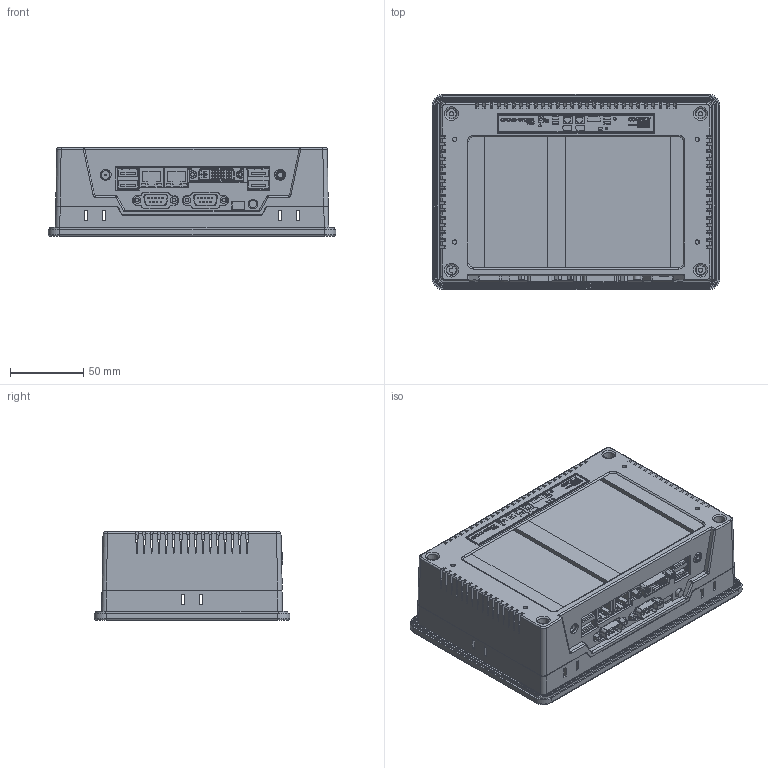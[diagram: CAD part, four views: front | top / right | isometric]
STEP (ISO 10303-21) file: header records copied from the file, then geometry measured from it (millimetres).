
FILE_DESCRIPTION (( 'STEP AP214' ), '1' );
FILE_NAME ('CPCV5-070WR_rev3_蝶變だ橾辨.STEP', '2025-05-07T05:47:39', ( '' ), ( '' ), 'SwSTEP 2.0', 'SolidWorks 2020', '' );
FILE_SCHEMA (( 'AUTOMOTIVE_DESIGN' ));
Length unit declared in the file: millimetre
Products named in the file (1): CPCV5-070WR_rev3_蝶變だ橾辨
Bounding box: 196 x 133 x 60 mm (x, y, z)
Surface area: 175729.3 mm2 (no closed solid volume)
Topology: 0 solids, 72 shells, 1267 faces, 5655 edges, 4361 vertices
Faces by surface type: plane 880, cylinder 278, bspline 48, torus 45, cone 11, sphere 5
Full cylindrical faces by diameter (mm): 1 x19, 1.5 x1, 1.8 x1, 2 x1, 2.286 x5, 2.3 x2, 3 x4, 3.048 x1, 3.6 x1, 5 x1, 6 x2, 6.5 x1, 7.5 x2
Entity records: 77602 total; most frequent: CARTESIAN_POINT 20857, ORIENTED_EDGE 7932, DIRECTION 7817, EDGE_CURVE 5577, VERTEX_POINT 4345, VECTOR 4305, LINE 4305, AXIS2_PLACEMENT_3D 1756
